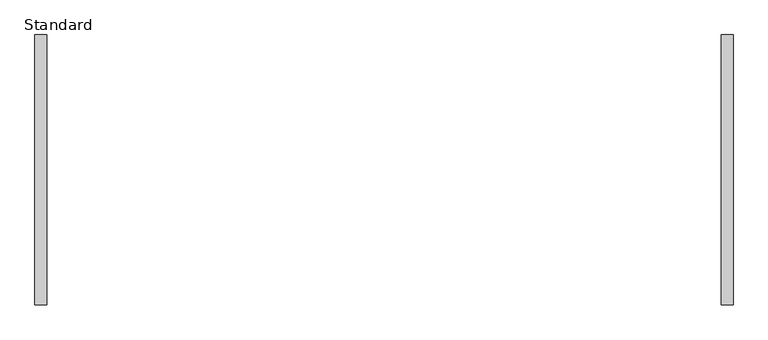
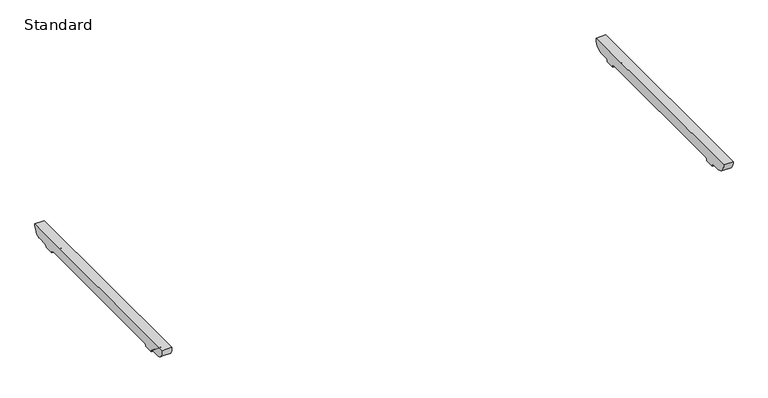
"""IFC4 building model written with IfcOpenShell, lengths in millimetres: furniture geometry, BDG_BossDesign_Tbls_AgentTables4Legs_Nested : Standard."""

import ifcopenshell
import ifcopenshell.guid

model = None  # the IFC model being written
_history = None  # IfcOwnerHistory: only IFC2X3 demands one
_inside = {}  # id of a spatial element -> (the spatial element, [elements in it])
_under = {}  # id of a project, library or spatial element -> (it, [spatial elements below it])
_declared = {}  # id of a project -> (the project, [libraries it declares])
_typed = {}  # id of a type object -> (the type object, [elements of that type])
_made_of = {}  # id of a material, layer set ... -> (it, [elements and type objects made of it])


def new_model(schema):
    """Start an empty IFC model of exactly this schema.

    Asked for "IFC4X3", IfcOpenShell would pick the latest addendum, in which some entities
    have other attributes; the version numbers below select the first issue.
    IFC2X3 requires an IfcOwnerHistory on every rooted entity: one is made here for all.
    """
    global model, _history
    if schema == "IFC4X3":
        model = ifcopenshell.file(schema_version=(4, 3, 0, 0))
    else:
        model = ifcopenshell.file(schema=schema)
    _inside.clear()
    _under.clear()
    _declared.clear()
    _typed.clear()
    _made_of.clear()
    _history = None
    if model.schema == "IFC2X3":
        org = make("IfcOrganization", Name="unknown")
        user = make(
            "IfcPersonAndOrganization",
            ThePerson=make("IfcPerson", FamilyName="unknown"),
            TheOrganization=org,
        )
        app = make(
            "IfcApplication",
            ApplicationDeveloper=org,
            Version="unknown",
            ApplicationFullName="unknown",
            ApplicationIdentifier="unknown",
        )
        _history = make(
            "IfcOwnerHistory",
            OwningUser=user,
            OwningApplication=app,
            ChangeAction="ADDED",
            CreationDate=0,
        )
    return model


def make(cls, **values):
    """One entity of the class cls with the attributes given. An attribute that is None is left unset."""
    return model.create_entity(
        cls, **{name: value for name, value in values.items() if value is not None}
    )


def rooted(cls, **values):
    """An entity with a GlobalId (a new one), such as an element, a storey or a relation."""
    return make(cls, GlobalId=ifcopenshell.guid.new(), OwnerHistory=_history, **values)


def si_unit(unit_type, name, prefix=None):
    """IfcSIUnit, for example si_unit("LENGTHUNIT", "METRE", prefix="MILLI")."""
    return make("IfcSIUnit", UnitType=unit_type, Prefix=prefix, Name=name)


def assignment(units):
    """IfcUnitAssignment: the units of a project."""
    return None if units is None else make("IfcUnitAssignment", Units=units)


def point(xyz):
    """IfcCartesianPoint."""
    return None if xyz is None else make("IfcCartesianPoint", Coordinates=xyz)


def direction(xyz):
    """IfcDirection."""
    return None if xyz is None else make("IfcDirection", DirectionRatios=xyz)


def frame(location, z_axis=None, x_axis=None):
    """IfcAxis2Placement3D, a coordinate frame: its origin and axes. An axis left out is left unset."""
    return make(
        "IfcAxis2Placement3D",
        Location=point(location),
        Axis=direction(z_axis),
        RefDirection=direction(x_axis),
    )


def frame_2d(location, x_axis=None):
    """IfcAxis2Placement2D, a coordinate frame in the plane: its origin and x axis."""
    return make(
        "IfcAxis2Placement2D", Location=point(location), RefDirection=direction(x_axis)
    )


def origin():
    """The frame at (0, 0, 0) with its axes left unset."""
    return frame((0.0, 0.0, 0.0))


def place(relative_to, where):
    """IfcLocalPlacement: puts the frame where relative to a parent placement (None: the world)."""
    return make(
        "IfcLocalPlacement", PlacementRelTo=relative_to, RelativePlacement=where
    )


def context(
    kind, dimensions, precision=None, world=None, true_north=None, identifier=None
):
    """IfcGeometricRepresentationContext, for example the 3D "Model" context."""
    return make(
        "IfcGeometricRepresentationContext",
        ContextIdentifier=identifier,
        ContextType=kind,
        CoordinateSpaceDimension=dimensions,
        Precision=precision,
        WorldCoordinateSystem=world,
        TrueNorth=true_north,
    )


def project(units=None, contexts=None):
    """IfcProject with its units and contexts."""
    return rooted(
        "IfcProject",
        Name="project",
        RepresentationContexts=contexts,
        UnitsInContext=assignment(units),
    )


def spatial(cls, under=None, at=None, **own):
    """A site, building, storey or space (cls), placed at a placement, below another one or the project."""
    s = rooted(cls, ObjectPlacement=at, **own)
    if under is not None:
        _under.setdefault(under.id(), (under, []))[1].append(s)
    return s


def polyline(points):
    """IfcPolyline through the points."""
    return make("IfcPolyline", Points=[point(p) for p in points])


def circle_curve(where, radius):
    """IfcCircle in the frame where."""
    return make("IfcCircle", Position=where, Radius=radius)


def trimmed(basis, trim1, trim2, sense, master):
    """IfcTrimmedCurve: the piece of a basis curve between two trims."""
    return make(
        "IfcTrimmedCurve",
        BasisCurve=basis,
        Trim1=trim1,
        Trim2=trim2,
        SenseAgreement=sense,
        MasterRepresentation=master,
    )


def segment(curve, same_sense, transition):
    """IfcCompositeCurveSegment."""
    return make(
        "IfcCompositeCurveSegment",
        Transition=transition,
        SameSense=same_sense,
        ParentCurve=curve,
    )


def composite_curve(segments, self_intersect=None):
    """IfcCompositeCurve: segments joined end to end."""
    return make("IfcCompositeCurve", Segments=segments, SelfIntersect=self_intersect)


def outline(outer, holes=None, kind="AREA"):
    """IfcArbitraryClosedProfileDef: a profile drawn as a closed curve; with holes, ...WithVoids."""
    if holes is None:
        return make("IfcArbitraryClosedProfileDef", ProfileType=kind, OuterCurve=outer)
    return make(
        "IfcArbitraryProfileDefWithVoids",
        ProfileType=kind,
        OuterCurve=outer,
        InnerCurves=holes,
    )


def extrude(swept, where, along, depth):
    """IfcExtrudedAreaSolid: the profile swept, set in the frame where, extruded along a direction by depth."""
    return make(
        "IfcExtrudedAreaSolid",
        SweptArea=swept,
        Position=where,
        ExtrudedDirection=direction(along),
        Depth=depth,
    )


def shape(context_of_items, identifier, shape_type, items):
    """IfcShapeRepresentation: the items that make up one representation, for example the "Body"."""
    return make(
        "IfcShapeRepresentation",
        ContextOfItems=context_of_items,
        RepresentationIdentifier=identifier,
        RepresentationType=shape_type,
        Items=items,
    )


def source(mapping_origin, context_of_items, identifier, shape_type, items):
    """IfcRepresentationMap: a shape defined once, which mapped items show again and again."""
    return make(
        "IfcRepresentationMap",
        MappingOrigin=mapping_origin,
        MappedRepresentation=shape(context_of_items, identifier, shape_type, items),
    )


def transform(
    local_origin,
    x_axis=None,
    y_axis=None,
    z_axis=None,
    scale=None,
    scale2=None,
    scale3=None,
    uniform=True,
):
    """IfcCartesianTransformationOperator3D, or its non-uniform kind. x_axis, y_axis, z_axis: its Axis1, 2, 3."""
    if uniform:
        return make(
            "IfcCartesianTransformationOperator3D",
            Axis1=direction(x_axis),
            Axis2=direction(y_axis),
            LocalOrigin=point(local_origin),
            Scale=scale,
            Axis3=direction(z_axis),
        )
    return make(
        "IfcCartesianTransformationOperator3DnonUniform",
        Axis1=direction(x_axis),
        Axis2=direction(y_axis),
        LocalOrigin=point(local_origin),
        Scale=scale,
        Axis3=direction(z_axis),
        Scale2=scale2,
        Scale3=scale3,
    )


def mapped(mapping_source, mapping_target):
    """IfcMappedItem: shows the shape of a source again, moved by a transform."""
    return make(
        "IfcMappedItem", MappingSource=mapping_source, MappingTarget=mapping_target
    )


def made_of(thing, what):
    """Note that an element or type object is made of a material, layer set ...; save() writes the relation."""
    if what is not None:
        _made_of.setdefault(what.id(), (what, []))[1].append(thing)
    return thing


def element(
    cls,
    number,
    at=None,
    inside=None,
    cuts=None,
    type_object=None,
    material=None,
    context=None,
    identifier="Body",
    shape_type=None,
    held_by="IfcProductDefinitionShape",
    body=None,
    shapes=None,
    **own,
):
    """One element of the class cls, such as IfcWall. Its Tag is "e" and its number.

    at: its placement. inside: the storey or other place that contains it. cuts: it is an
    opening in that element (IfcRelVoidsElement). A single representation is given by context,
    identifier, shape_type and body (its items); several are given by shapes. held_by: the class
    of the entity that holds the representations. save() writes the other relations.
    """
    e = rooted(cls, Tag="e%d" % number, ObjectPlacement=at, **own)
    if body is not None:
        shapes = [shape(context, identifier, shape_type, body)]
    if shapes is not None:
        e.Representation = make(held_by, Representations=shapes)
    if inside is not None:
        _inside.setdefault(inside.id(), (inside, []))[1].append(e)
    if cuts is not None:
        rooted(
            "IfcRelVoidsElement", RelatingBuildingElement=cuts, RelatedOpeningElement=e
        )
    if type_object is not None:
        _typed.setdefault(type_object.id(), (type_object, []))[1].append(e)
    return made_of(e, material)


def aggregate(whole, parts):
    """IfcRelAggregates: a whole, such as a stair, and the parts it consists of."""
    return rooted("IfcRelAggregates", RelatingObject=whole, RelatedObjects=parts)


def save(model, path):
    """Write the relations noted so far, then the file.

    IfcRelAggregates (storeys below a building ...), IfcRelContainedInSpatialStructure (elements
    in a storey), IfcRelDefinesByType, IfcRelAssociatesMaterial and IfcRelDeclares: one each for
    every whole, place, type object, material and project.
    """
    for whole, parts in _under.values():
        aggregate(whole, parts)
    for where, things in _inside.values():
        rooted(
            "IfcRelContainedInSpatialStructure",
            RelatedElements=things,
            RelatingStructure=where,
        )
    for kind, things in _typed.values():
        rooted("IfcRelDefinesByType", RelatedObjects=things, RelatingType=kind)
    for what, things in _made_of.values():
        rooted("IfcRelAssociatesMaterial", RelatedObjects=things, RelatingMaterial=what)
    for by, libraries in _declared.values():
        rooted("IfcRelDeclares", RelatingContext=by, RelatedDefinitions=libraries)
    model.write(path)


def standard_760dc299(model_context):
    return source(origin(), model_context, "Body", "SweptSolid", [
        extrude(outline(composite_curve([segment(polyline([(480.5450184, 672.0), (442.7000122, 672.0)]), True, "CONTINUOUS"), segment(trimmed(circle_curve(frame_2d((442.7000122, 660.0)), 12.0), [point((442.7000122, 672.0))], [point((430.7000122, 660.0))], True, "CARTESIAN"), True, "CONTINUOUS"), segment(polyline([(430.7000122, 660.0), (385.7000122, 660.0)]), True, "CONTINUOUS"), segment(trimmed(circle_curve(frame_2d((373.7000122, 660.0)), 12.0), [point((385.7000122, 660.0))], [point((373.7000122, 672.0))], True, "CARTESIAN"), True, "CONTINUOUS"), segment(polyline([(373.7000122, 672.0), (-373.7000122, 672.0)]), True, "CONTINUOUS"), segment(trimmed(circle_curve(frame_2d((-373.7000122, 660.0)), 12.0), [point((-373.7000122, 672.0))], [point((-385.7000122, 660.0))], True, "CARTESIAN"), True, "CONTINUOUS"), segment(polyline([(-385.7000122, 660.0), (-430.7000122, 660.0)]), True, "CONTINUOUS"), segment(trimmed(circle_curve(frame_2d((-442.7000122, 660.0)), 12.0), [point((-430.7000122, 660.0))], [point((-442.7000122, 672.0))], True, "CARTESIAN"), True, "CONTINUOUS"), segment(polyline([(-442.7000122, 672.0), (-480.5450184, 672.0)]), True, "CONTINUOUS"), segment(trimmed(circle_curve(frame_2d((-478.2220439, 716.5514119)), 44.6119324), [point((-480.5450184, 672.0))], [point((-522.5, 722.0))], False, "CARTESIAN"), True, "CONTINUOUS"), segment(polyline([(-522.5, 722.0), (522.5, 722.0)]), True, "CONTINUOUS"), segment(trimmed(circle_curve(frame_2d((478.2220439, 716.5514119)), 44.6119324), [point((522.5, 722.0))], [point((480.5450184, 672.0))], False, "CARTESIAN"), True, "CONTINUOUS")], self_intersect=False)), frame((1305.0, 0.0, 0.0), z_axis=(1.0, 0.0, 0.0), x_axis=(0.0, 1.0, 0.0)), (0.0, 0.0, 1.0), 45.0),
        extrude(outline(composite_curve([segment(polyline([(480.5450184, 672.0), (442.7000122, 672.0)]), True, "CONTINUOUS"), segment(trimmed(circle_curve(frame_2d((442.7000122, 660.0)), 12.0), [point((442.7000122, 672.0))], [point((430.7000122, 660.0))], True, "CARTESIAN"), True, "CONTINUOUS"), segment(polyline([(430.7000122, 660.0), (385.7000122, 660.0)]), True, "CONTINUOUS"), segment(trimmed(circle_curve(frame_2d((373.7000122, 660.0)), 12.0), [point((385.7000122, 660.0))], [point((373.7000122, 672.0))], True, "CARTESIAN"), True, "CONTINUOUS"), segment(polyline([(373.7000122, 672.0), (-373.7000122, 672.0)]), True, "CONTINUOUS"), segment(trimmed(circle_curve(frame_2d((-373.7000122, 660.0)), 12.0), [point((-373.7000122, 672.0))], [point((-385.7000122, 660.0))], True, "CARTESIAN"), True, "CONTINUOUS"), segment(polyline([(-385.7000122, 660.0), (-430.7000122, 660.0)]), True, "CONTINUOUS"), segment(trimmed(circle_curve(frame_2d((-442.7000122, 660.0)), 12.0), [point((-430.7000122, 660.0))], [point((-442.7000122, 672.0))], True, "CARTESIAN"), True, "CONTINUOUS"), segment(polyline([(-442.7000122, 672.0), (-480.5450184, 672.0)]), True, "CONTINUOUS"), segment(trimmed(circle_curve(frame_2d((-478.2220439, 716.5514119)), 44.6119324), [point((-480.5450184, 672.0))], [point((-522.5, 722.0))], False, "CARTESIAN"), True, "CONTINUOUS"), segment(polyline([(-522.5, 722.0), (522.5, 722.0)]), True, "CONTINUOUS"), segment(trimmed(circle_curve(frame_2d((478.2220439, 716.5514119)), 44.6119324), [point((522.5, 722.0))], [point((480.5450184, 672.0))], False, "CARTESIAN"), True, "CONTINUOUS")], self_intersect=False)), frame((-1350.0, 0.0, 0.0), z_axis=(1.0, 0.0, 0.0), x_axis=(0.0, 1.0, 0.0)), (0.0, 0.0, 1.0), 45.0),
    ])


if __name__ == "__main__":
    model = new_model("IFC4")
    model_context = context("Model", 3, world=origin())
    ifc_project = project(units=[si_unit("LENGTHUNIT", "METRE", prefix="MILLI")], contexts=[model_context])
    site = spatial("IfcSite", under=ifc_project)
    building = spatial("IfcBuilding", under=site)
    placement = place(None, origin())
    standard_shape = standard_760dc299(model_context)
    element("IfcFurniture", 1, ObjectType="BDG_BossDesign_Tbls_AgentTables4Legs_Nested : Standard", at=placement, inside=building, context=model_context, shape_type="MappedRepresentation", body=[
        mapped(standard_shape, transform((0.0, 0.0, 0.0), x_axis=(1.0, 0.0, 0.0), y_axis=(0.0, 1.0, 0.0), z_axis=(0.0, 0.0, 1.0))),
    ])
    save(model, "model.ifc")
